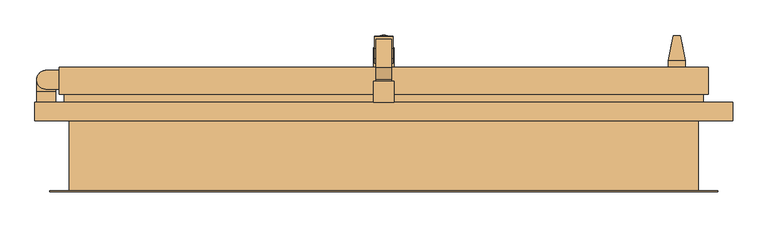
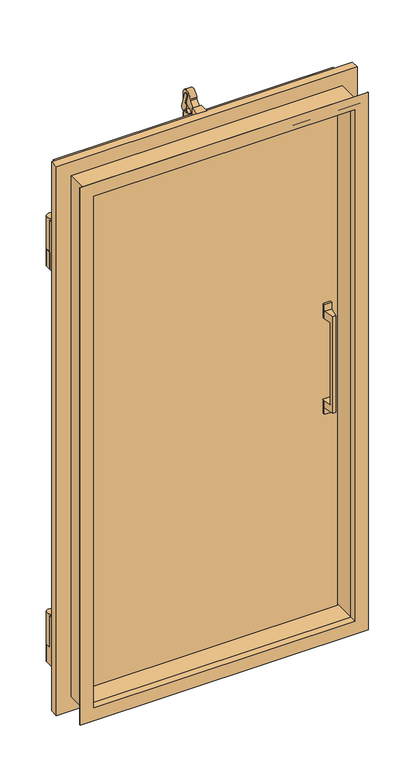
"""IFC4 building model written with IfcOpenShell, lengths in millimetres: door geometry, 冷凍_シリウス片開き扉4方_クローザー付 : W870xH1800xt100."""

import ifcopenshell
import ifcopenshell.guid

model = None  # the IFC model being written
_history = None  # IfcOwnerHistory: only IFC2X3 demands one
_inside = {}  # id of a spatial element -> (the spatial element, [elements in it])
_under = {}  # id of a project, library or spatial element -> (it, [spatial elements below it])
_declared = {}  # id of a project -> (the project, [libraries it declares])
_typed = {}  # id of a type object -> (the type object, [elements of that type])
_made_of = {}  # id of a material, layer set ... -> (it, [elements and type objects made of it])


def new_model(schema):
    """Start an empty IFC model of exactly this schema.

    Asked for "IFC4X3", IfcOpenShell would pick the latest addendum, in which some entities
    have other attributes; the version numbers below select the first issue.
    IFC2X3 requires an IfcOwnerHistory on every rooted entity: one is made here for all.
    """
    global model, _history
    if schema == "IFC4X3":
        model = ifcopenshell.file(schema_version=(4, 3, 0, 0))
    else:
        model = ifcopenshell.file(schema=schema)
    _inside.clear()
    _under.clear()
    _declared.clear()
    _typed.clear()
    _made_of.clear()
    _history = None
    if model.schema == "IFC2X3":
        org = make("IfcOrganization", Name="unknown")
        user = make(
            "IfcPersonAndOrganization",
            ThePerson=make("IfcPerson", FamilyName="unknown"),
            TheOrganization=org,
        )
        app = make(
            "IfcApplication",
            ApplicationDeveloper=org,
            Version="unknown",
            ApplicationFullName="unknown",
            ApplicationIdentifier="unknown",
        )
        _history = make(
            "IfcOwnerHistory",
            OwningUser=user,
            OwningApplication=app,
            ChangeAction="ADDED",
            CreationDate=0,
        )
    return model


def make(cls, **values):
    """One entity of the class cls with the attributes given. An attribute that is None is left unset."""
    return model.create_entity(
        cls, **{name: value for name, value in values.items() if value is not None}
    )


def rooted(cls, **values):
    """An entity with a GlobalId (a new one), such as an element, a storey or a relation."""
    return make(cls, GlobalId=ifcopenshell.guid.new(), OwnerHistory=_history, **values)


def si_unit(unit_type, name, prefix=None):
    """IfcSIUnit, for example si_unit("LENGTHUNIT", "METRE", prefix="MILLI")."""
    return make("IfcSIUnit", UnitType=unit_type, Prefix=prefix, Name=name)


def assignment(units):
    """IfcUnitAssignment: the units of a project."""
    return None if units is None else make("IfcUnitAssignment", Units=units)


def point(xyz):
    """IfcCartesianPoint."""
    return None if xyz is None else make("IfcCartesianPoint", Coordinates=xyz)


def direction(xyz):
    """IfcDirection."""
    return None if xyz is None else make("IfcDirection", DirectionRatios=xyz)


def frame(location, z_axis=None, x_axis=None):
    """IfcAxis2Placement3D, a coordinate frame: its origin and axes. An axis left out is left unset."""
    return make(
        "IfcAxis2Placement3D",
        Location=point(location),
        Axis=direction(z_axis),
        RefDirection=direction(x_axis),
    )


def frame_2d(location, x_axis=None):
    """IfcAxis2Placement2D, a coordinate frame in the plane: its origin and x axis."""
    return make(
        "IfcAxis2Placement2D", Location=point(location), RefDirection=direction(x_axis)
    )


def origin():
    """The frame at (0, 0, 0) with its axes left unset."""
    return frame((0.0, 0.0, 0.0))


def origin_with_axes():
    """The frame at (0, 0, 0) with the z axis (0, 0, 1) and the x axis (1, 0, 0) written out."""
    return frame((0.0, 0.0, 0.0), z_axis=(0.0, 0.0, 1.0), x_axis=(1.0, 0.0, 0.0))


def origin_2d():
    """The frame at (0, 0) in the plane with its x axis left unset."""
    return frame_2d((0.0, 0.0))


def place(relative_to, where):
    """IfcLocalPlacement: puts the frame where relative to a parent placement (None: the world)."""
    return make(
        "IfcLocalPlacement", PlacementRelTo=relative_to, RelativePlacement=where
    )


def context(
    kind, dimensions, precision=None, world=None, true_north=None, identifier=None
):
    """IfcGeometricRepresentationContext, for example the 3D "Model" context."""
    return make(
        "IfcGeometricRepresentationContext",
        ContextIdentifier=identifier,
        ContextType=kind,
        CoordinateSpaceDimension=dimensions,
        Precision=precision,
        WorldCoordinateSystem=world,
        TrueNorth=true_north,
    )


def project(units=None, contexts=None):
    """IfcProject with its units and contexts."""
    return rooted(
        "IfcProject",
        Name="project",
        RepresentationContexts=contexts,
        UnitsInContext=assignment(units),
    )


def spatial(cls, under=None, at=None, **own):
    """A site, building, storey or space (cls), placed at a placement, below another one or the project."""
    s = rooted(cls, ObjectPlacement=at, **own)
    if under is not None:
        _under.setdefault(under.id(), (under, []))[1].append(s)
    return s


def polyline(points):
    """IfcPolyline through the points."""
    return make("IfcPolyline", Points=[point(p) for p in points])


def circle_curve(where, radius):
    """IfcCircle in the frame where."""
    return make("IfcCircle", Position=where, Radius=radius)


def trimmed(basis, trim1, trim2, sense, master):
    """IfcTrimmedCurve: the piece of a basis curve between two trims."""
    return make(
        "IfcTrimmedCurve",
        BasisCurve=basis,
        Trim1=trim1,
        Trim2=trim2,
        SenseAgreement=sense,
        MasterRepresentation=master,
    )


def segment(curve, same_sense, transition):
    """IfcCompositeCurveSegment."""
    return make(
        "IfcCompositeCurveSegment",
        Transition=transition,
        SameSense=same_sense,
        ParentCurve=curve,
    )


def composite_curve(segments, self_intersect=None):
    """IfcCompositeCurve: segments joined end to end."""
    return make("IfcCompositeCurve", Segments=segments, SelfIntersect=self_intersect)


def outline(outer, holes=None, kind="AREA"):
    """IfcArbitraryClosedProfileDef: a profile drawn as a closed curve; with holes, ...WithVoids."""
    if holes is None:
        return make("IfcArbitraryClosedProfileDef", ProfileType=kind, OuterCurve=outer)
    return make(
        "IfcArbitraryProfileDefWithVoids",
        ProfileType=kind,
        OuterCurve=outer,
        InnerCurves=holes,
    )


def extrude(swept, where, along, depth):
    """IfcExtrudedAreaSolid: the profile swept, set in the frame where, extruded along a direction by depth."""
    return make(
        "IfcExtrudedAreaSolid",
        SweptArea=swept,
        Position=where,
        ExtrudedDirection=direction(along),
        Depth=depth,
    )


def faces_of(points, faces, orient=None, outer=None):
    """IfcFace entities. A face is a list of loops; a loop is a list of indices into points, from 0.

    orient and outer hold one flag for each loop. By default every Orientation is true, the
    first loop of a face is its IfcFaceOuterBound and the others are IfcFaceBound.
    """
    made = []
    for i, loops in enumerate(faces):
        bounds = []
        for j, loop in enumerate(loops):
            is_outer = j == 0 if outer is None else outer[i][j]
            bounds.append(
                make(
                    "IfcFaceOuterBound" if is_outer else "IfcFaceBound",
                    Bound=make("IfcPolyLoop", Polygon=[points[k] for k in loop]),
                    Orientation=True if orient is None else orient[i][j],
                )
            )
        made.append(make("IfcFace", Bounds=bounds))
    return made


def faceted_brep(points, faces, orient=None, outer=None, voids=None):
    """IfcFacetedBrep: a solid bounded by flat faces; with voids (closed shells), ...WithVoids."""
    shared = [point(p) for p in points]
    hull = make("IfcClosedShell", CfsFaces=faces_of(shared, faces, orient, outer))
    if voids is None:
        return make("IfcFacetedBrep", Outer=hull)
    return make(
        "IfcFacetedBrepWithVoids",
        Outer=hull,
        Voids=[
            make(cls, CfsFaces=faces_of(shared, fs, o, b)) for cls, fs, o, b in voids
        ],
    )


def shape(context_of_items, identifier, shape_type, items):
    """IfcShapeRepresentation: the items that make up one representation, for example the "Body"."""
    return make(
        "IfcShapeRepresentation",
        ContextOfItems=context_of_items,
        RepresentationIdentifier=identifier,
        RepresentationType=shape_type,
        Items=items,
    )


def source(mapping_origin, context_of_items, identifier, shape_type, items):
    """IfcRepresentationMap: a shape defined once, which mapped items show again and again."""
    return make(
        "IfcRepresentationMap",
        MappingOrigin=mapping_origin,
        MappedRepresentation=shape(context_of_items, identifier, shape_type, items),
    )


def transform(
    local_origin,
    x_axis=None,
    y_axis=None,
    z_axis=None,
    scale=None,
    scale2=None,
    scale3=None,
    uniform=True,
):
    """IfcCartesianTransformationOperator3D, or its non-uniform kind. x_axis, y_axis, z_axis: its Axis1, 2, 3."""
    if uniform:
        return make(
            "IfcCartesianTransformationOperator3D",
            Axis1=direction(x_axis),
            Axis2=direction(y_axis),
            LocalOrigin=point(local_origin),
            Scale=scale,
            Axis3=direction(z_axis),
        )
    return make(
        "IfcCartesianTransformationOperator3DnonUniform",
        Axis1=direction(x_axis),
        Axis2=direction(y_axis),
        LocalOrigin=point(local_origin),
        Scale=scale,
        Axis3=direction(z_axis),
        Scale2=scale2,
        Scale3=scale3,
    )


def mapped(mapping_source, mapping_target):
    """IfcMappedItem: shows the shape of a source again, moved by a transform."""
    return make(
        "IfcMappedItem", MappingSource=mapping_source, MappingTarget=mapping_target
    )


def made_of(thing, what):
    """Note that an element or type object is made of a material, layer set ...; save() writes the relation."""
    if what is not None:
        _made_of.setdefault(what.id(), (what, []))[1].append(thing)
    return thing


def element(
    cls,
    number,
    at=None,
    inside=None,
    cuts=None,
    type_object=None,
    material=None,
    context=None,
    identifier="Body",
    shape_type=None,
    held_by="IfcProductDefinitionShape",
    body=None,
    shapes=None,
    **own,
):
    """One element of the class cls, such as IfcWall. Its Tag is "e" and its number.

    at: its placement. inside: the storey or other place that contains it. cuts: it is an
    opening in that element (IfcRelVoidsElement). A single representation is given by context,
    identifier, shape_type and body (its items); several are given by shapes. held_by: the class
    of the entity that holds the representations. save() writes the other relations.
    """
    e = rooted(cls, Tag="e%d" % number, ObjectPlacement=at, **own)
    if body is not None:
        shapes = [shape(context, identifier, shape_type, body)]
    if shapes is not None:
        e.Representation = make(held_by, Representations=shapes)
    if inside is not None:
        _inside.setdefault(inside.id(), (inside, []))[1].append(e)
    if cuts is not None:
        rooted(
            "IfcRelVoidsElement", RelatingBuildingElement=cuts, RelatedOpeningElement=e
        )
    if type_object is not None:
        _typed.setdefault(type_object.id(), (type_object, []))[1].append(e)
    return made_of(e, material)


def aggregate(whole, parts):
    """IfcRelAggregates: a whole, such as a stair, and the parts it consists of."""
    return rooted("IfcRelAggregates", RelatingObject=whole, RelatedObjects=parts)


def save(model, path):
    """Write the relations noted so far, then the file.

    IfcRelAggregates (storeys below a building ...), IfcRelContainedInSpatialStructure (elements
    in a storey), IfcRelDefinesByType, IfcRelAssociatesMaterial and IfcRelDeclares: one each for
    every whole, place, type object, material and project.
    """
    for whole, parts in _under.values():
        aggregate(whole, parts)
    for where, things in _inside.values():
        rooted(
            "IfcRelContainedInSpatialStructure",
            RelatedElements=things,
            RelatingStructure=where,
        )
    for kind, things in _typed.values():
        rooted("IfcRelDefinesByType", RelatedObjects=things, RelatingType=kind)
    for what, things in _made_of.values():
        rooted("IfcRelAssociatesMaterial", RelatedObjects=things, RelatingMaterial=what)
    for by, libraries in _declared.values():
        rooted("IfcRelDeclares", RelatingContext=by, RelatedDefinitions=libraries)
    model.write(path)


def plane_surface(at):
    """IfcPlane: the flat surface through the origin of the frame at, square to its z axis."""
    return make("IfcPlane", Position=at)


def cylinder_surface(at, radius):
    """IfcCylindricalSurface: all points at the distance radius from the z axis of the frame at."""
    return make("IfcCylindricalSurface", Position=at, Radius=radius)


def advanced_brep(points, edges, surfaces, faces):
    """IfcAdvancedBrep: a solid bounded by faces that lie on surfaces and meet in shared edges.

    An edge is (start, end): straight between two places in points (the first is 0);
    or (start, end, curve); or (start, end, curve, False) where it runs against its curve.
    A face is (place in surfaces, loops), or (place, loops, False) where it looks against
    its surface's normal. A loop lists edges by number (the first is 1), with a minus sign
    where the edge is run from its end to its start. The first loop is the outer one.
    """
    corners = [point(p) for p in points]
    vertices = [make("IfcVertexPoint", VertexGeometry=c) for c in corners]
    made = []
    for start, end, *more in edges:
        made.append(
            make(
                "IfcEdgeCurve",
                EdgeStart=vertices[start],
                EdgeEnd=vertices[end],
                EdgeGeometry=more[0] if more else make("IfcPolyline", Points=[corners[start], corners[end]]),
                SameSense=more[1] if len(more) > 1 else True,
            )
        )
    hull = []
    for where, loops, *sense in faces:
        bounds = []
        for j, loop in enumerate(loops):
            ring = [make("IfcOrientedEdge", EdgeElement=made[abs(k) - 1], Orientation=k > 0) for k in loop]
            bounds.append(
                make(
                    "IfcFaceOuterBound" if j == 0 else "IfcFaceBound",
                    Bound=make("IfcEdgeLoop", EdgeList=ring),
                    Orientation=True,
                )
            )
        hull.append(make("IfcAdvancedFace", Bounds=bounds, FaceSurface=surfaces[where], SameSense=sense[0] if sense else True))
    return make("IfcAdvancedBrep", Outer=make("IfcClosedShell", CfsFaces=hull))


def door_b5cc7a54(model_context):
    return source(origin(), model_context, "Body", "SolidModel", [
        extrude(outline(composite_curve([segment(polyline([(153.7575082, 1889.1707894), (171.1391829, 1837.2691434)]), True, "CONTINUOUS"), segment(trimmed(circle_curve(frame_2d((161.6568058, 1834.0935294)), 10.0), [point((171.1391829, 1837.2691434))], [point((166.038682, 1825.104694))], False, "CARTESIAN"), True, "CONTINUOUS"), segment(polyline([(166.038682, 1825.104694), (154.99992, 1819.72352), (154.99992, 1830.0), (132.4778735, 1830.0), (147.44367, 1837.17143), (142.24514, 1852.69423), (149.32271, 1858.32711), (140.4852998, 1884.7156242)]), True, "CONTINUOUS"), segment(trimmed(circle_curve(frame_2d((147.1198418, 1886.9478606)), 7.0000019), [point((140.4852998, 1884.7156242))], [point((153.7575082, 1889.1707894))], False, "CARTESIAN"), True, "CONTINUOUS")], self_intersect=False)), frame((-13.25, 0.0, 0.0), z_axis=(1.0, 0.0, 0.0), x_axis=(0.0, 1.0, 0.0)), (0.0, 0.0, 1.0), 26.55),
        extrude(outline(composite_curve([segment(polyline([(109.00191, 1859.03364), (127.0, 1878.2594997), (127.0, 1882.9563633)]), True, "CONTINUOUS"), segment(trimmed(circle_curve(frame_2d((147.0008804, 1882.9563633)), 20.0008804), [point((127.0, 1882.9563633))], [point((167.0017607, 1882.9563633))], False, "CARTESIAN"), True, "CONTINUOUS"), segment(polyline([(167.0017607, 1882.9563633), (167.0017607, 1849.84567), (129.73254, 1849.84567), (108.3436039, 1832.49977), (107.00188, 1832.49977), (107.00188, 1859.03364), (109.00191, 1859.03364)]), True, "CONTINUOUS")], self_intersect=False)), frame((-11.0002, 0.0, 0.0), z_axis=(1.0, 0.0, 0.0), x_axis=(0.0, 1.0, 0.0)), (0.0, 0.0, 1.0), 22.0002),
        extrude(outline(polyline([(15.0, 107.00188), (15.0, 77.0), (-15.0, 77.0), (-15.0, 107.00188), (15.0, 107.00188)])), frame((0.0, 0.0, 1832.49977), z_axis=(0.0, 0.0, 1.0), x_axis=(1.0, 0.0, 0.0)), (0.0, 0.0, 1.0), 32.50023),
        extrude(outline(composite_curve([segment(trimmed(circle_curve(frame_2d((-484.00039, 108.99586)), 13.5), [point((-484.6329474, 95.5106877))], [point((-484.3537825, 122.4912338))], False, "CARTESIAN"), True, "CONTINUOUS"), segment(polyline([(-484.3537825, 122.4912338), (-465.0, 122.4912338), (-465.0, 95.5106877), (-484.6329474, 95.5106877)]), True, "CONTINUOUS")], self_intersect=False)), frame((0.0, 0.0, 1538.0), z_axis=(0.0, 0.0, 1.0), x_axis=(1.0, 0.0, 0.0)), (0.0, 0.0, 1.0), 113.0),
        advanced_brep(
        [(-470.4957639, 91.49586, 1538.0), (-470.4957639, 108.99586, 1538.0), (-497.4957639, 109.3492474, 1538.0), (-497.4957639, 91.49586, 1538.0), (-470.4957639, 91.49586, 1478.0), (-497.4957639, 91.49586, 1478.0), (-497.4957639, 109.3492474, 1478.0), (-470.50039, 108.99586, 1478.0)],
        [
            (0, 1),
            (1, 2, circle_curve(frame((-484.00039, 108.99586, 1538.0), z_axis=(0.0, 0.0, 1.0), x_axis=(1.0, 0.0, 0.0)), 13.5)),
            (2, 3),
            (3, 0),
            (4, 5),
            (5, 6),
            (6, 7, circle_curve(frame((-484.00039, 108.99586, 1478.0), z_axis=(0.0, 0.0, -1.0), x_axis=(1.0, 0.0, 0.0)), 13.5)),
            (7, 4),
            (0, 4),
            (7, 1),
            (2, 6),
            (5, 3),
        ],
        [
            plane_surface(frame((-470.4957639, 108.99586, 1538.0), z_axis=(0.0, 0.0, 1.0), x_axis=(0.0, 1.0, 0.0))),
            plane_surface(frame((-470.4957639, 108.99586, 1478.0), z_axis=(0.0, 0.0, -1.0), x_axis=(0.0, -1.0, 0.0))),
            plane_surface(frame((-470.4957639, 91.49586, 1538.0), z_axis=(1.0, 0.0, 0.0), x_axis=(0.0, 0.0, -1.0))),
            plane_surface(frame((-497.4957639, 109.3492474, 1538.0), z_axis=(-1.0, 0.0, 0.0), x_axis=(0.0, 0.0, -1.0))),
            plane_surface(frame((-497.4957639, 91.49586, 1538.0), z_axis=(0.0, -1.0, 0.0), x_axis=(0.0, 0.0, -1.0))),
            cylinder_surface(frame((-484.00039, 108.99586, 1478.0), z_axis=(0.0, 0.0, 1.0), x_axis=(1.0, 0.0, 0.0)), 13.5),
        ],
        [
            (0, [[1, 2, 3, 4]]),
            (1, [[5, 6, 7, 8]]),
            (2, [[-1, 9, -8, 10]]),
            (3, [[-3, 11, -6, 12]]),
            (4, [[-4, -12, -5, -9]]),
            (5, [[-2, -10, -7, -11]]),
        ],
    ),
        extrude(outline(polyline([(-470.4957639, 77.00058), (-497.4957639, 77.00058), (-497.4957639, 91.49586), (-470.4957639, 91.49586), (-470.4957639, 77.00058)])), frame((0.0, 0.0, 1478.0), z_axis=(0.0, 0.0, 1.0), x_axis=(1.0, 0.0, 0.0)), (0.0, 0.0, 1.0), 173.0),
        extrude(outline(composite_curve([segment(trimmed(circle_curve(frame_2d((-484.00039, 108.99586)), 13.5), [point((-484.6329474, 95.5106877))], [point((-484.3537825, 122.4912338))], False, "CARTESIAN"), True, "CONTINUOUS"), segment(polyline([(-484.3537825, 122.4912338), (-465.0, 122.4912338), (-465.0, 95.5106877), (-484.6329474, 95.5106877)]), True, "CONTINUOUS")], self_intersect=False)), frame((0.0, 0.0, 147.0), z_axis=(0.0, 0.0, 1.0), x_axis=(1.0, 0.0, 0.0)), (0.0, 0.0, 1.0), 113.0),
        advanced_brep(
        [(-470.4957639, 77.00058, 260.0), (-470.4957639, 91.49586, 260.0), (-497.4957639, 91.49586, 260.0), (-497.4957639, 77.00058, 260.0), (-470.4957639, 77.00058, 87.0), (-497.4957639, 77.00058, 87.0), (-497.4957639, 109.3492474, 87.0), (-470.50039, 108.99586, 87.0), (-470.4957639, 108.99586, 147.0), (-470.4957639, 91.49586, 147.0), (-497.4957639, 91.49586, 147.0), (-497.4957639, 109.3492474, 147.0)],
        [
            (0, 1),
            (1, 2),
            (2, 3),
            (3, 0),
            (4, 5),
            (5, 6),
            (6, 7, circle_curve(frame((-484.00039, 108.99586, 87.0), z_axis=(0.0, 0.0, -1.0), x_axis=(1.0, 0.0, 0.0)), 13.5)),
            (7, 4),
            (0, 4),
            (7, 8),
            (8, 9),
            (9, 1),
            (9, 10),
            (10, 2),
            (10, 11),
            (11, 6),
            (5, 3),
            (8, 11, circle_curve(frame((-484.00039, 108.99586, 147.0), z_axis=(0.0, 0.0, 1.0), x_axis=(1.0, 0.0, 0.0)), 13.5)),
        ],
        [
            plane_surface(frame((-470.4957639, 91.49586, 260.0), z_axis=(0.0, 0.0, 1.0), x_axis=(0.0, 1.0, 0.0))),
            plane_surface(frame((-470.4957639, 91.49586, 87.0), z_axis=(0.0, 0.0, -1.0), x_axis=(0.0, -1.0, 0.0))),
            plane_surface(frame((-470.4957639, 77.00058, 260.0), z_axis=(1.0, 0.0, 0.0), x_axis=(0.0, 0.0, -1.0))),
            plane_surface(frame((-470.4957639, 91.49586, 260.0), z_axis=(0.0, 1.0, 0.0), x_axis=(0.0, 0.0, -1.0))),
            plane_surface(frame((-497.4957639, 91.49586, 260.0), z_axis=(-1.0, 0.0, 0.0), x_axis=(0.0, 0.0, -1.0))),
            plane_surface(frame((-497.4957639, 77.00058, 260.0), z_axis=(0.0, -1.0, 0.0), x_axis=(0.0, 0.0, -1.0))),
            plane_surface(frame((-470.4957639, 108.99586, 147.0), z_axis=(0.0, 0.0, 1.0), x_axis=(0.0, 1.0, 0.0))),
            cylinder_surface(frame((-484.00039, 108.99586, 87.0), z_axis=(0.0, 0.0, 1.0), x_axis=(1.0, 0.0, 0.0)), 13.5),
        ],
        [
            (0, [[1, 2, 3, 4]]),
            (1, [[5, 6, 7, 8]]),
            (2, [[-1, 9, -8, 10, 11, 12]]),
            (3, [[-2, -12, 13, 14]]),
            (4, [[-3, -14, 15, 16, -6, 17]]),
            (5, [[-4, -17, -5, -9]]),
            (6, [[-11, 18, -15, -13]]),
            (7, [[-18, -10, -7, -16]]),
        ],
    ),
        faceted_brep([(451.00103, 50.0, -16.00103), (451.00103, -50.0, -16.00103), (-451.00103, -50.0, -16.00103), (-451.00103, 50.0, -16.00103), (-451.00103, -50.0, 1816.00103), (-451.00103, 50.0, 1816.00103), (451.00103, -50.0, 1816.00103), (-435.0, -50.0, 1800.0), (435.0, -50.0, 1800.0), (435.0, -50.0, 0.0), (-435.0, -50.0, 0.0), (-500.0, 50.0, -65.0), (500.0, 50.0, -65.0), (500.0, 50.0, 1865.0), (-500.0, 50.0, 1865.0), (451.00103, 50.0, 1816.00103), (500.0, 77.0, -65.0), (-500.0, 77.0, -65.0), (-500.0, 77.0, 1865.0), (500.0, 77.0, 1865.0), (-435.0, 77.0, 0.0), (435.0, 77.0, 0.0), (435.0, 77.0, 1800.0), (-435.0, 77.0, 1800.0)], [[[0, 1, 2, 3]], [[3, 2, 4, 5]], [[2, 1, 6, 4], [7, 8, 9, 10]], [[11, 12, 13, 14], [5, 15, 0, 3]], [[16, 12, 11, 17]], [[17, 11, 14, 18]], [[18, 19, 16, 17], [20, 21, 22, 23]], [[9, 21, 20, 10]], [[10, 20, 23, 7]], [[15, 6, 1, 0]], [[19, 13, 12, 16]], [[8, 22, 21, 9]], [[5, 4, 6, 15]], [[18, 14, 13, 19]], [[7, 23, 22, 8]]]),
        faceted_brep([(433.8, -51.2, 1.2), (433.8, -29.2, 1.2), (-433.8, -29.2, 1.2), (-433.8, -51.2, 1.2), (-433.8, -29.2, 1798.8), (-433.8, -51.2, 1798.8), (-435.0, -29.2, 1800.0), (435.0, -29.2, 1800.0), (435.0, -29.2, 0.0), (-435.0, -29.2, 0.0), (433.8, -29.2, 1798.8), (-479.0, -51.2, -44.0), (479.0, -51.2, -44.0), (479.0, -51.2, 1844.0), (-479.0, -51.2, 1844.0), (433.8, -51.2, 1798.8), (479.0, -50.0, -44.0), (-479.0, -50.0, -44.0), (-479.0, -50.0, 1844.0), (479.0, -50.0, 1844.0), (-435.0, -50.0, 0.0), (435.0, -50.0, 0.0), (435.0, -50.0, 1800.0), (-435.0, -50.0, 1800.0)], [[[0, 1, 2, 3]], [[3, 2, 4, 5]], [[6, 7, 8, 9], [2, 1, 10, 4]], [[11, 12, 13, 14], [5, 15, 0, 3]], [[16, 12, 11, 17]], [[17, 11, 14, 18]], [[18, 19, 16, 17], [20, 21, 22, 23]], [[8, 21, 20, 9]], [[9, 20, 23, 6]], [[15, 10, 1, 0]], [[19, 13, 12, 16]], [[7, 22, 21, 8]], [[5, 4, 10, 15]], [[18, 14, 13, 19]], [[6, 23, 22, 7]]]),
        faceted_brep([(-465.0, 88.0, 1830.0), (-465.0, 88.0, -30.0), (465.0, 88.0, -30.0), (465.0, 88.0, 1830.0), (-421.0, 88.0, 14.0), (-421.0, 88.0, 1786.0), (421.0, 88.0, 1786.0), (421.0, 88.0, 14.0), (-465.0, 127.0, 1830.0), (-465.0, 127.0, -30.0), (465.0, 127.0, -30.0), (465.0, 127.0, 1830.0), (-421.0, 27.0, 14.0), (-421.0, 27.0, 1786.0), (421.0, 27.0, 1786.0), (421.0, 27.0, 14.0)], [[[0, 1, 2, 3], [4, 5, 6, 7]], [[1, 0, 8, 9]], [[2, 1, 9, 10]], [[3, 2, 10, 11]], [[12, 13, 5, 4]], [[14, 15, 7, 6]], [[15, 12, 4, 7]], [[8, 11, 10, 9]], [[13, 12, 15, 14]], [[0, 3, 11, 8]], [[13, 14, 6, 5]]]),
        extrude(outline(polyline([(458.0, 77.00058), (-458.0, 77.00058), (-458.0, 88.0), (458.0, 88.0), (458.0, 77.00058)])), frame((0.0, 0.0, -23.0), z_axis=(0.0, 0.0, 1.0), x_axis=(1.0, 0.0, 0.0)), (0.0, 0.0, 1.0), 23.0),
        extrude(outline(composite_curve([segment(trimmed(circle_curve(origin_2d(), 3.3), [point((0.0, 3.3))], [point((0.0, -3.3))], False, "CARTESIAN"), True, "CONTINUOUS"), segment(trimmed(circle_curve(origin_2d(), 3.3), [point((0.0, -3.3))], [point((0.0, 3.3))], False, "CARTESIAN"), True, "CONTINUOUS")], self_intersect=False)), frame((0.0, 160.3677798, 1812.7778233), z_axis=(0.0, 0.15424646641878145, 0.9880324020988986), x_axis=(1.0, 0.0, 0.0)), (0.0, 0.0, 1.0), 17.4307812),
        extrude(outline(composite_curve([segment(trimmed(circle_curve(origin_2d(), 13.0), [point((0.0, 13.0000001))], [point((0.0, -13.0))], False, "CARTESIAN"), True, "CONTINUOUS"), segment(trimmed(circle_curve(origin_2d(), 13.0), [point((0.0, -13.0))], [point((0.0, 13.0000001))], False, "CARTESIAN"), True, "CONTINUOUS")], self_intersect=False)), frame((0.0, 147.1948076, 1728.3977812), z_axis=(0.0, 0.15424646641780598, 0.988032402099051), x_axis=(1.0, 0.0, 0.0)), (0.0, 0.0, 1.0), 85.4021002),
        extrude(outline(polyline([(15.0, 154.99992), (15.0, 127.0), (-15.0, 127.0), (-15.0, 154.99992), (15.0, 154.99992)])), frame((0.0, 0.0, 1723.99998), z_axis=(0.0, 0.0, 1.0), x_axis=(1.0, 0.0, 0.0)), (0.0, 0.0, 1.0), 106.00002),
        faceted_brep([(391.9448833, -8.0, 756.1), (391.9448833, -8.0, 1043.88815), (397.00063, 18.0021943, 1043.88815), (397.00063, 18.0021943, 1069.5093), (390.0005294, -18.0, 1069.5093), (390.0005294, -18.0, 730.5), (397.00063, 18.0021943, 730.5), (397.00063, 18.0021943, 756.1), (379.9994306, -18.0, 1069.5093), (379.9994306, -18.0, 730.5), (378.0550767, -8.0, 1043.88815), (378.0550767, -8.0, 756.1), (372.99933, 18.0021943, 756.1), (372.99933, 18.0021943, 730.5), (372.99933, 18.0021943, 1069.5093), (372.99933, 18.0021943, 1043.88815), (372.99933, 27.0, 1043.88815), (397.00063, 27.0, 1043.88815), (372.99933, 18.0021943, 1092.51065), (372.99933, 27.0, 1092.51065), (397.00063, 27.0, 1092.51065), (397.00063, 18.0021943, 1092.51065), (397.00063, 27.0, 756.1), (372.99933, 27.0, 756.1), (372.99933, 27.0, 707.5), (372.99933, 18.0021943, 707.5), (397.00063, 27.0, 707.5), (397.00063, 18.0021943, 707.5)], [[[0, 1, 2, 3, 4, 5, 6, 7]], [[4, 8, 9, 5]], [[10, 11, 12, 13, 9, 8, 14, 15]], [[1, 0, 11, 10]], [[14, 8, 4, 3]], [[15, 16, 17, 2, 1, 10]], [[16, 15, 14, 18, 19]], [[17, 16, 19, 20]], [[2, 17, 20, 21, 3]], [[19, 18, 21, 20]], [[21, 18, 14, 3]], [[6, 5, 9, 13]], [[7, 22, 23, 12, 11, 0]], [[12, 23, 24, 25, 13]], [[24, 23, 22, 26]], [[26, 22, 7, 6, 27]], [[24, 26, 27, 25]], [[25, 27, 6, 13]]]),
        faceted_brep([(407.99933, 127.0, 707.5), (407.99933, 135.9978057, 707.5), (432.00063, 135.9978057, 707.5), (432.00063, 127.0, 707.5), (407.99933, 127.0, 756.1), (407.99933, 135.9978057, 756.1), (407.99933, 135.9978057, 730.5), (432.00063, 127.0, 756.1), (432.00063, 135.9978057, 730.5), (432.00063, 135.9978057, 756.1), (414.9994306, 172.0, 730.5), (425.0005294, 172.0, 730.5), (426.9448833, 162.0, 756.1), (413.0550767, 162.0, 756.1), (425.0005294, 172.0, 1069.5093), (432.00063, 135.9978057, 1069.5093), (432.00063, 135.9978057, 1043.88815), (426.9448833, 162.0, 1043.88815), (414.9994306, 172.0, 1069.5093), (413.0550767, 162.0, 1043.88815), (407.99933, 135.9978057, 1043.88815), (407.99933, 135.9978057, 1069.5093), (432.00063, 127.0, 1043.88815), (407.99933, 127.0, 1043.88815), (407.99933, 127.0, 1092.51065), (407.99933, 135.9978057, 1092.51065), (432.00063, 127.0, 1092.51065), (432.00063, 135.9978057, 1092.51065)], [[[0, 1, 2, 3]], [[1, 0, 4, 5, 6]], [[0, 3, 7, 4]], [[3, 2, 8, 9, 7]], [[2, 1, 6, 8]], [[6, 10, 11, 8]], [[5, 4, 7, 9, 12, 13]], [[8, 11, 14, 15, 16, 17, 12, 9]], [[14, 11, 10, 18]], [[18, 10, 6, 5, 13, 19, 20, 21]], [[15, 14, 18, 21]], [[16, 22, 23, 20, 19, 17]], [[20, 23, 24, 25, 21]], [[23, 22, 26, 24]], [[22, 16, 15, 27, 26]], [[24, 26, 27, 25]], [[25, 27, 15, 21]], [[12, 17, 19, 13]]]),
        extrude(outline(polyline([(-458.0, 77.0), (-458.0, 88.0), (-435.0, 88.0), (-435.0, 77.0), (-458.0, 77.0)])), origin_with_axes(), (0.0, 0.0, 1.0), 1800.0),
        extrude(outline(polyline([(458.0, 77.0), (435.0, 77.0), (435.0, 88.0), (458.0, 88.0), (458.0, 77.0)])), origin_with_axes(), (0.0, 0.0, 1.0), 1800.0),
        extrude(outline(polyline([(-458.0, 77.0), (-458.0, 88.0), (458.0, 88.0), (458.0, 77.0), (-458.0, 77.0)])), frame((0.0, 0.0, 1800.0), z_axis=(0.0, 0.0, 1.0), x_axis=(1.0, 0.0, 0.0)), (0.0, 0.0, 1.0), 23.0),
    ])


if __name__ == "__main__":
    model = new_model("IFC4")
    model_context = context("Model", 3, world=origin())
    ifc_project = project(units=[si_unit("LENGTHUNIT", "METRE", prefix="MILLI")], contexts=[model_context])
    site = spatial("IfcSite", under=ifc_project)
    building = spatial("IfcBuilding", under=site)
    placement = place(None, origin())
    door_shape = door_b5cc7a54(model_context)
    element("IfcDoor", 1, ObjectType="冷凍_シリウス片開き扉4方_クローザー付 : W870xH1800xt100", at=placement, inside=building, context=model_context, shape_type="MappedRepresentation", body=[
        mapped(door_shape, transform((0.0, 0.0, 0.0), x_axis=(1.0, 0.0, 0.0), y_axis=(0.0, 1.0, 0.0), z_axis=(0.0, 0.0, 1.0))),
    ])
    save(model, "model.ifc")
